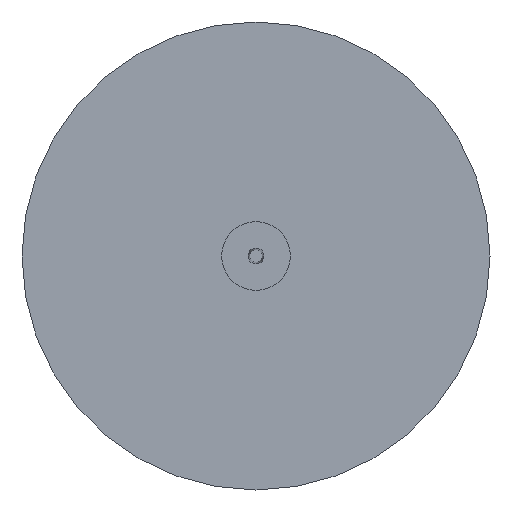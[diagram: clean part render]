
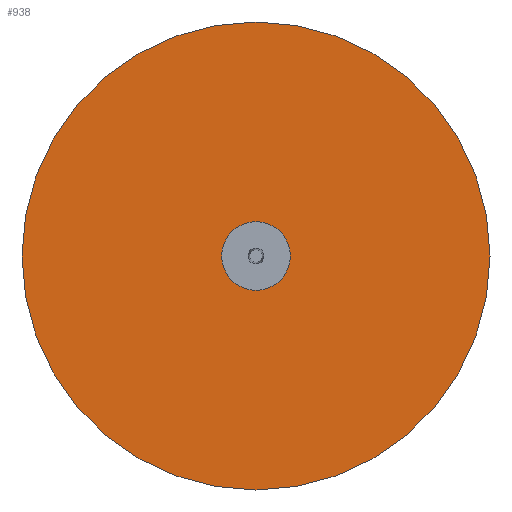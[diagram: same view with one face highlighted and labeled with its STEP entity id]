
A CAD part, front view. The second image highlights one B-rep face of the part: STEP entity #938.
In plain terms, the highlighted planar face has unit normal (0, -1, 0).
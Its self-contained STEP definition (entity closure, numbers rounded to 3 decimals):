
#578=CARTESIAN_POINT('',(75.,-41.5,0.0));
#579=VERTEX_POINT('',#578);
#595=CARTESIAN_POINT('',(-75.,-41.5,0.));
#596=VERTEX_POINT('',#595);
#603=CARTESIAN_POINT('',(0.,-41.5,0.0));
#604=DIRECTION('',(0.0,-1.0,0.0));
#605=DIRECTION('',(1.0,0.0,0.0));
#606=AXIS2_PLACEMENT_3D('',#603,#604,#605);
#607=CIRCLE('',#606,75.);
#608=EDGE_CURVE('',#579,#596,#607,.T.);
#712=CARTESIAN_POINT('',(11.,-41.5,0.0));
#713=VERTEX_POINT('',#712);
#738=CARTESIAN_POINT('',(-11.,-41.5,0.));
#739=VERTEX_POINT('',#738);
#746=CARTESIAN_POINT('',(0.,-41.5,0.0));
#747=DIRECTION('',(0.0,-1.0,0.0));
#748=DIRECTION('',(1.0,0.0,0.0));
#749=AXIS2_PLACEMENT_3D('',#746,#747,#748);
#750=CIRCLE('',#749,11.);
#751=EDGE_CURVE('',#739,#713,#750,.T.);
#830=CARTESIAN_POINT('',(0.,-41.5,0.0));
#831=DIRECTION('',(0.0,-1.0,0.0));
#832=DIRECTION('',(1.0,0.0,0.0));
#833=AXIS2_PLACEMENT_3D('',#830,#831,#832);
#834=CIRCLE('',#833,11.);
#835=EDGE_CURVE('',#713,#739,#834,.T.);
#913=CARTESIAN_POINT('',(0.,-41.5,0.0));
#914=DIRECTION('',(0.0,-1.0,0.0));
#915=DIRECTION('',(1.0,0.0,0.0));
#916=AXIS2_PLACEMENT_3D('',#913,#914,#915);
#917=CIRCLE('',#916,75.);
#918=EDGE_CURVE('',#596,#579,#917,.T.);
#925=CARTESIAN_POINT('',(43.,-41.5,0.0));
#926=DIRECTION('',(0.0,-1.0,0.0));
#927=DIRECTION('',(0.0,0.0,-1.0));
#928=AXIS2_PLACEMENT_3D('',#925,#926,#927);
#929=PLANE('',#928);
#930=ORIENTED_EDGE('',*,*,#608,.T.);
#931=ORIENTED_EDGE('',*,*,#918,.T.);
#932=EDGE_LOOP('',(#930,#931));
#933=FACE_OUTER_BOUND('',#932,.T.);
#934=ORIENTED_EDGE('',*,*,#835,.F.);
#935=ORIENTED_EDGE('',*,*,#751,.F.);
#936=EDGE_LOOP('',(#934,#935));
#937=FACE_BOUND('',#936,.T.);
#938=ADVANCED_FACE('',(#933,#937),#929,.T.);
